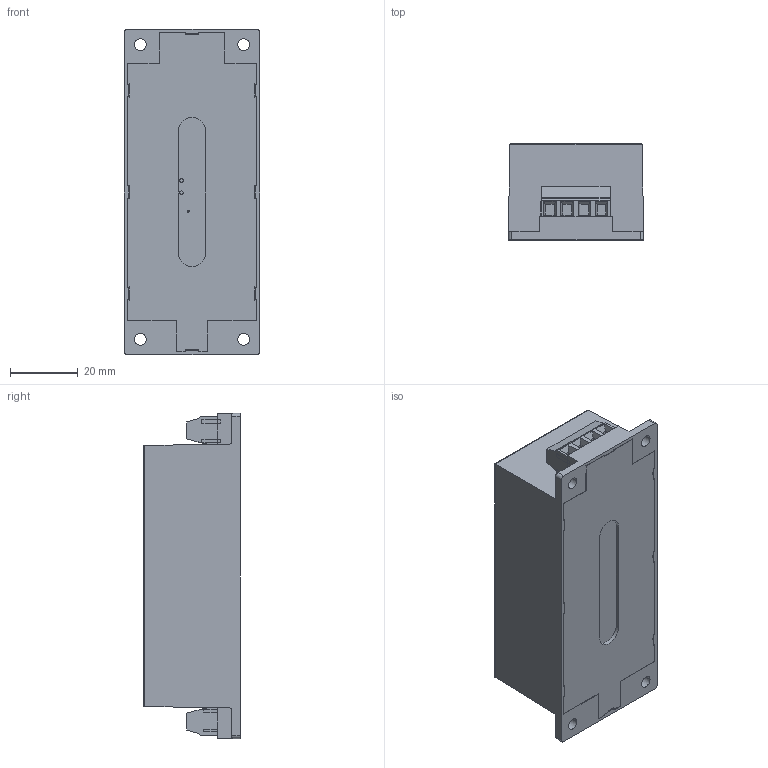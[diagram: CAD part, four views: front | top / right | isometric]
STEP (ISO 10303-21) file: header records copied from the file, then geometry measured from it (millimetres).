
FILE_DESCRIPTION (( 'STEP AP214' ), '1' );
FILE_NAME ('EML30-S STEP.STEP', '2014-07-30T18:34:42', ( '' ), ( '' ), 'SwSTEP 2.0', 'SolidWorks 2014', '' );
FILE_SCHEMA (( 'AUTOMOTIVE_DESIGN' ));
Length unit declared in the file: inch
Products named in the file (18): EML30-S STEP; EML30-S Base; EML30-S CASE; ELK508V-2 Input Connector; ELK508V-4 Output Connector; E-1030207; D-1030207; OptoCoupler TLP521-2; C-1030207; B-1030207; A-1030207; D12.7x29.5mm電容; EML30 PCB(EML30 -S)103,02,07; EML30 PCB(EML30 -S)103,02,07-4; EML30 PCB(EML30 -S)103,02,07-3; EML30 PCB(EML30 -S)103,02,07-2; EML30 PCB(EML30 -S)103,02,07-1
Assembly tree (20 placements, depth 3):
  EML30-S STEP
    EML30 PCB(EML30 -S)103,02,07
      EML30 PCB(EML30 -S)103,02,07
      EML30 PCB(EML30 -S)103,02,07-1
      EML30 PCB(EML30 -S)103,02,07-2
      EML30 PCB(EML30 -S)103,02,07-3
      EML30 PCB(EML30 -S)103,02,07-4
    D12.7x29.5mm電容
    A-1030207
    B-1030207
    C-1030207  x2
    OptoCoupler TLP521-2
    D-1030207  x2
    E-1030207  x2
    ELK508V-4 Output Connector
    ELK508V-2 Input Connector
    EML30-S CASE
    EML30-S Base
Bounding box: 40 x 28.45 x 96 mm (x, y, z)
Volume: 30852.3 mm3; surface area: 40346.3 mm2
Topology: 19 solids, 19 shells, 807 faces, 2109 edges, 1372 vertices
Faces by surface type: plane 638, cylinder 125, bspline 40, cone 4
Entity records: 26230 total; most frequent: CARTESIAN_POINT 5348, ORIENTED_EDGE 4126, DIRECTION 3829, EDGE_CURVE 2063, LINE 1699, VECTOR 1699, VERTEX_POINT 1344, AXIS2_PLACEMENT_3D 1065
